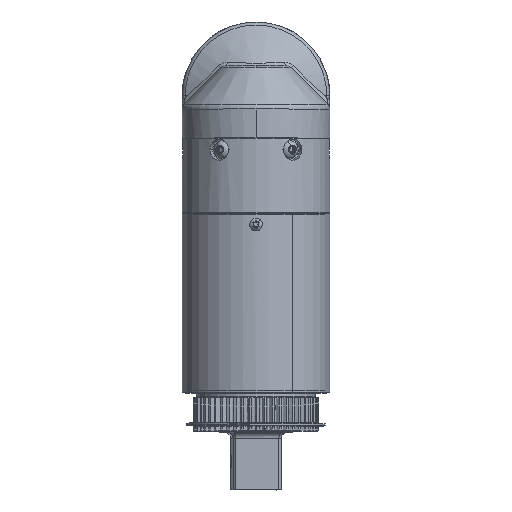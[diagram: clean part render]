
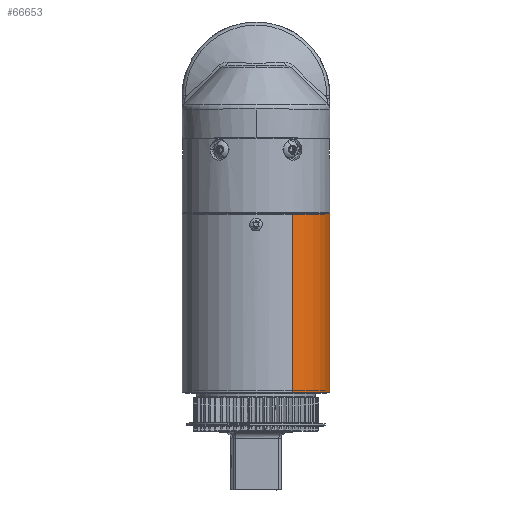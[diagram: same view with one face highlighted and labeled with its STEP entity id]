
A CAD part, top view. The second image highlights one B-rep face of the part: STEP entity #66653.
In plain terms, the highlighted cylindrical face has radius 38.735 mm (diameter 77.47 mm), a partial arc.
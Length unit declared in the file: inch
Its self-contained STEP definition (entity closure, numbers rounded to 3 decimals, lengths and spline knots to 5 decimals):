
#119 = CARTESIAN_POINT ( 'NONE',  ( 1.28132, -2.68324, 2.17304 ) ) ;
#1071 = CARTESIAN_POINT ( 'NONE',  ( 1.3308, -2.73899, 2.25523 ) ) ;
#1801 = CARTESIAN_POINT ( 'NONE',  ( 1.34906, -2.71464, 2.2889 ) ) ;
#2873 = CARTESIAN_POINT ( 'NONE',  ( 0.7625, -6.12053, 4.32069 ) ) ;
#3940 = CARTESIAN_POINT ( 'NONE',  ( 1.32069, -2.58503, 2.2375 ) ) ;
#4954 = DIRECTION ( 'NONE',  ( 0., 1., 0. ) ) ;
#5096 = LINE ( 'NONE', #14081, #73416 ) ;
#9282 = B_SPLINE_CURVE_WITH_KNOTS ( 'NONE', 3,
 ( #51311, #57949, #57236, #134201, #79434, #91965, #32660, #45313, #89090, #35570, #55748, #145219, #11257, #112786, #100960, #119, #124604, #125328, #55035, #77969, #100234, #111333, #136377, #103146, #134932, #23823, #113519, #34094, #21640, #80911 ),
 .UNSPECIFIED., .F., .F.,
 ( 4, 2, 2, 2, 2, 2, 2, 2, 2, 2, 2, 2, 2, 2, 4 ),
 ( 0., 0.00039, 0.00077, 0.00116, 0.00155, 0.00232, 0.0031, 0.00348, 0.00387, 0.00426, 0.00465, 0.00503, 0.00542, 0.00581, 0.00619 ),
 .UNSPECIFIED. ) ;
#9495 = VERTEX_POINT ( 'NONE', #2873 ) ;
#10314 = CARTESIAN_POINT ( 'NONE',  ( 1.32069, -2.58503, 2.2375 ) ) ;
#11196 = DIRECTION ( 'NONE',  ( 0., -1., 0. ) ) ;
#11257 = CARTESIAN_POINT ( 'NONE',  ( 1.27996, -2.65281, 2.17095 ) ) ;
#13670 = CARTESIAN_POINT ( 'NONE',  ( 1.35796, -2.65796, 2.30605 ) ) ;
#14081 = CARTESIAN_POINT ( 'NONE',  ( -0.7625, -2.43303, 1.67931 ) ) ;
#14398 = CARTESIAN_POINT ( 'NONE',  ( 1.35682, -2.68328, 2.30381 ) ) ;
#16561 = CARTESIAN_POINT ( 'NONE',  ( 1.35436, -2.62849, 2.29904 ) ) ;
#17314 = CARTESIAN_POINT ( 'NONE',  ( 1.34389, -2.60108, 2.27916 ) ) ;
#18974 = FACE_BOUND ( 'NONE', #54254, .T. ) ;
#19766 = CIRCLE ( 'NONE', #102636, 1.525 ) ;
#21640 = CARTESIAN_POINT ( 'NONE',  ( 1.31813, -2.74102, 2.23307 ) ) ;
#23823 = CARTESIAN_POINT ( 'NONE',  ( 1.30794, -2.73704, 2.21582 ) ) ;
#24071 = CARTESIAN_POINT ( 'NONE',  ( 1.3506, -2.71063, 2.29182 ) ) ;
#32660 = CARTESIAN_POINT ( 'NONE',  ( 1.30072, -2.59532, 2.20391 ) ) ;
#32918 = CYLINDRICAL_SURFACE ( 'NONE', #141465, 1.525 ) ;
#34094 = CARTESIAN_POINT ( 'NONE',  ( 1.31552, -2.74051, 2.2286 ) ) ;
#34351 = CARTESIAN_POINT ( 'NONE',  ( 1.32067, -2.74102, 2.23748 ) ) ;
#35570 = CARTESIAN_POINT ( 'NONE',  ( 1.28842, -2.61507, 2.18413 ) ) ;
#39748 = ORIENTED_EDGE ( 'NONE', *, *, #51433, .F. ) ;
#45313 = CARTESIAN_POINT ( 'NONE',  ( 1.29628, -2.60098, 2.19669 ) ) ;
#47004 = CARTESIAN_POINT ( 'NONE',  ( 1.35322, -2.70215, 2.29685 ) ) ;
#49923 = CARTESIAN_POINT ( 'NONE',  ( 1.33087, -2.5871, 2.25535 ) ) ;
#50339 = DIRECTION ( 'NONE',  ( 0., -1., 0. ) ) ;
#51311 = CARTESIAN_POINT ( 'NONE',  ( 1.32069, -2.58503, 2.2375 ) ) ;
#51433 = EDGE_CURVE ( 'NONE', #135791, #73582, #110953, .T. ) ;
#52173 = CARTESIAN_POINT ( 'NONE',  ( 1.35325, -2.62401, 2.29691 ) ) ;
#53522 = VERTEX_POINT ( 'NONE', #71884 ) ;
#53816 = FACE_OUTER_BOUND ( 'NONE', #58366, .T. ) ;
#54254 = EDGE_LOOP ( 'NONE', ( #124786, #71270 ) ) ;
#55035 = CARTESIAN_POINT ( 'NONE',  ( 1.28555, -2.70212, 2.17963 ) ) ;
#55354 = ORIENTED_EDGE ( 'NONE', *, *, #123802, .T. ) ;
#55748 = CARTESIAN_POINT ( 'NONE',  ( 1.28529, -2.62377, 2.17923 ) ) ;
#57236 = CARTESIAN_POINT ( 'NONE',  ( 1.31556, -2.58553, 2.22866 ) ) ;
#57949 = CARTESIAN_POINT ( 'NONE',  ( 1.31811, -2.58503, 2.23304 ) ) ;
#58366 = EDGE_LOOP ( 'NONE', ( #64952, #39748, #55354, #145369 ) ) ;
#58913 = CARTESIAN_POINT ( 'NONE',  ( 1.33987, -2.73122, 2.27168 ) ) ;
#59642 = DIRECTION ( 'NONE',  ( 0., -1., 0. ) ) ;
#59908 = DIRECTION ( 'NONE',  ( -0.5, 0., -0.866 ) ) ;
#60346 = CARTESIAN_POINT ( 'NONE',  ( 1.32584, -2.58503, 2.24643 ) ) ;
#64952 = ORIENTED_EDGE ( 'NONE', *, *, #115258, .F. ) ;
#66653 = ADVANCED_FACE ( 'NONE', ( #53816, #18974 ), #32918, .T. ) ;
#66738 = EDGE_CURVE ( 'NONE', #53522, #124611, #101421, .T. ) ;
#70009 = CARTESIAN_POINT ( 'NONE',  ( 0., -2.43303, 3. ) ) ;
#70724 = AXIS2_PLACEMENT_3D ( 'NONE', #100885, #144414, #134850 ) ;
#70740 = CARTESIAN_POINT ( 'NONE',  ( 1.35433, -2.69768, 2.29898 ) ) ;
#71270 = ORIENTED_EDGE ( 'NONE', *, *, #66738, .T. ) ;
#71884 = CARTESIAN_POINT ( 'NONE',  ( 1.32067, -2.74102, 2.23748 ) ) ;
#73416 = VECTOR ( 'NONE', #50339, 39.37008 ) ;
#73582 = VERTEX_POINT ( 'NONE', #76986 ) ;
#76986 = CARTESIAN_POINT ( 'NONE',  ( -0.7625, -2.43303, 1.67931 ) ) ;
#77969 = CARTESIAN_POINT ( 'NONE',  ( 1.28858, -2.71057, 2.1844 ) ) ;
#79434 = CARTESIAN_POINT ( 'NONE',  ( 1.30794, -2.58901, 2.21582 ) ) ;
#79707 = CARTESIAN_POINT ( 'NONE',  ( 1.344, -2.72542, 2.27935 ) ) ;
#80447 = CARTESIAN_POINT ( 'NONE',  ( 1.32577, -2.74103, 2.24629 ) ) ;
#80601 = EDGE_CURVE ( 'NONE', #9495, #94511, #19766, .T. ) ;
#80911 = CARTESIAN_POINT ( 'NONE',  ( 1.32067, -2.74102, 2.23748 ) ) ;
#81164 = CARTESIAN_POINT ( 'NONE',  ( 1.35773, -2.67331, 2.30559 ) ) ;
#82868 = CARTESIAN_POINT ( 'NONE',  ( 0., -6.12053, 3. ) ) ;
#83338 = CARTESIAN_POINT ( 'NONE',  ( 1.34911, -2.61152, 2.28898 ) ) ;
#84061 = CARTESIAN_POINT ( 'NONE',  ( 1.35615, -2.63795, 2.30252 ) ) ;
#89090 = CARTESIAN_POINT ( 'NONE',  ( 1.29416, -2.60428, 2.19328 ) ) ;
#91774 = CARTESIAN_POINT ( 'NONE',  ( 0.7625, -2.43303, 4.32069 ) ) ;
#91965 = CARTESIAN_POINT ( 'NONE',  ( 1.30306, -2.59293, 2.20774 ) ) ;
#92225 = CARTESIAN_POINT ( 'NONE',  ( 1.35613, -2.68824, 2.30247 ) ) ;
#93665 = DIRECTION ( 'NONE',  ( 0.5, 0., 0.866 ) ) ;
#94400 = CARTESIAN_POINT ( 'NONE',  ( 1.33984, -2.59538, 2.27167 ) ) ;
#94511 = VERTEX_POINT ( 'NONE', #102401 ) ;
#95872 = CARTESIAN_POINT ( 'NONE',  ( 1.35064, -2.61554, 2.2919 ) ) ;
#97367 = CARTESIAN_POINT ( 'NONE',  ( 1.34574, -2.60431, 2.28262 ) ) ;
#100234 = CARTESIAN_POINT ( 'NONE',  ( 1.2903, -2.71451, 2.18713 ) ) ;
#100885 = CARTESIAN_POINT ( 'NONE',  ( 0., -2.43303, 3. ) ) ;
#100960 = CARTESIAN_POINT ( 'NONE',  ( 1.28023, -2.67324, 2.17137 ) ) ;
#101421 = B_SPLINE_CURVE_WITH_KNOTS ( 'NONE', 3,
 ( #34351, #80447, #1071, #58913, #79707, #1801, #24071, #47004, #70740, #92225, #14398, #81164, #115220, #13670, #115929, #104130, #84061, #16561, #52173, #95872, #83338, #97367, #17314, #94400, #129133, #49923, #60346, #3940 ),
 .UNSPECIFIED., .F., .F.,
 ( 4, 2, 2, 2, 2, 2, 2, 2, 2, 2, 2, 2, 2, 4 ),
 ( 0.00619, 0.00697, 0.00774, 0.00813, 0.00852, 0.0089, 0.00929, 0.00968, 0.01007, 0.01045, 0.01084, 0.01123, 0.01161, 0.01239 ),
 .UNSPECIFIED. ) ;
#102401 = CARTESIAN_POINT ( 'NONE',  ( -0.7625, -6.12053, 1.67931 ) ) ;
#102636 = AXIS2_PLACEMENT_3D ( 'NONE', #82868, #4954, #59908 ) ;
#103146 = CARTESIAN_POINT ( 'NONE',  ( 1.30068, -2.73068, 2.20384 ) ) ;
#104130 = CARTESIAN_POINT ( 'NONE',  ( 1.35683, -2.6429, 2.30385 ) ) ;
#110953 = CIRCLE ( 'NONE', #70724, 1.525 ) ;
#111333 = CARTESIAN_POINT ( 'NONE',  ( 1.29417, -2.72179, 2.1933 ) ) ;
#112723 = LINE ( 'NONE', #134135, #142023 ) ;
#112786 = CARTESIAN_POINT ( 'NONE',  ( 1.27996, -2.66807, 2.17095 ) ) ;
#113519 = CARTESIAN_POINT ( 'NONE',  ( 1.31044, -2.73851, 2.22 ) ) ;
#115220 = CARTESIAN_POINT ( 'NONE',  ( 1.35796, -2.66825, 2.30604 ) ) ;
#115258 = EDGE_CURVE ( 'NONE', #73582, #94511, #5096, .T. ) ;
#115929 = CARTESIAN_POINT ( 'NONE',  ( 1.35773, -2.65287, 2.3056 ) ) ;
#123802 = EDGE_CURVE ( 'NONE', #135791, #9495, #112723, .T. ) ;
#124604 = CARTESIAN_POINT ( 'NONE',  ( 1.28212, -2.68811, 2.17428 ) ) ;
#124611 = VERTEX_POINT ( 'NONE', #10314 ) ;
#124786 = ORIENTED_EDGE ( 'NONE', *, *, #139945, .T. ) ;
#125328 = CARTESIAN_POINT ( 'NONE',  ( 1.28423, -2.69755, 2.17757 ) ) ;
#129133 = CARTESIAN_POINT ( 'NONE',  ( 1.33767, -2.59295, 2.26768 ) ) ;
#134135 = CARTESIAN_POINT ( 'NONE',  ( 0.7625, -2.43303, 4.32069 ) ) ;
#134201 = CARTESIAN_POINT ( 'NONE',  ( 1.31048, -2.58751, 2.22008 ) ) ;
#134850 = DIRECTION ( 'NONE',  ( -0.5, 0., -0.866 ) ) ;
#134932 = CARTESIAN_POINT ( 'NONE',  ( 1.30306, -2.73312, 2.20773 ) ) ;
#135791 = VERTEX_POINT ( 'NONE', #91774 ) ;
#136377 = CARTESIAN_POINT ( 'NONE',  ( 1.29625, -2.72503, 2.19665 ) ) ;
#139945 = EDGE_CURVE ( 'NONE', #124611, #53522, #9282, .T. ) ;
#141465 = AXIS2_PLACEMENT_3D ( 'NONE', #70009, #59642, #93665 ) ;
#142023 = VECTOR ( 'NONE', #11196, 39.37008 ) ;
#144414 = DIRECTION ( 'NONE',  ( 0., 1., 0. ) ) ;
#145219 = CARTESIAN_POINT ( 'NONE',  ( 1.28108, -2.64254, 2.17267 ) ) ;
#145369 = ORIENTED_EDGE ( 'NONE', *, *, #80601, .T. ) ;
